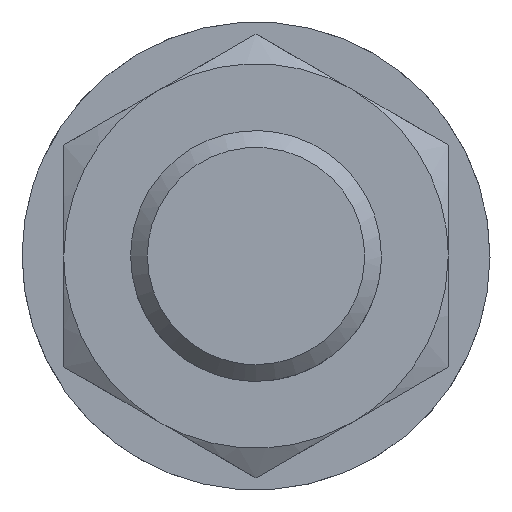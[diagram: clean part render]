
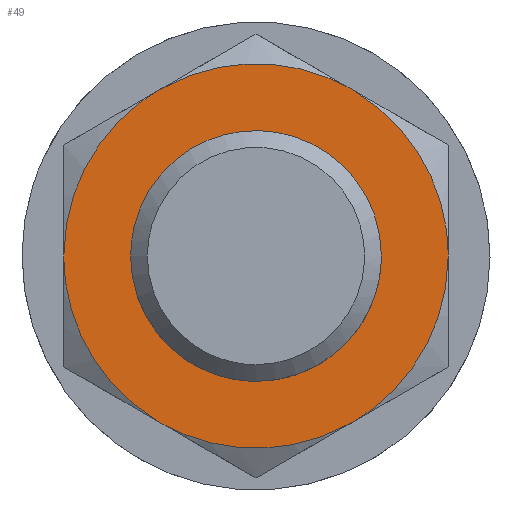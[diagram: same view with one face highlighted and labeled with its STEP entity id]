
A CAD part, left-side view. The second image highlights one B-rep face of the part: STEP entity #49.
In plain terms, the highlighted planar face has unit normal (-1, 0, 0).
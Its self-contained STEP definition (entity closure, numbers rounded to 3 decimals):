
#40=FACE_BOUND('',#138,.T.);
#49=ADVANCED_FACE('',(#92,#40),#663,.T.);
#92=FACE_OUTER_BOUND('',#137,.T.);
#137=EDGE_LOOP('',(#202,#203,#204,#205,#206,#207));
#138=EDGE_LOOP('',(#208,#209));
#202=ORIENTED_EDGE('',*,*,#405,.F.);
#203=ORIENTED_EDGE('',*,*,#407,.F.);
#204=ORIENTED_EDGE('',*,*,#408,.F.);
#205=ORIENTED_EDGE('',*,*,#406,.F.);
#206=ORIENTED_EDGE('',*,*,#404,.F.);
#207=ORIENTED_EDGE('',*,*,#403,.F.);
#208=ORIENTED_EDGE('',*,*,#393,.F.);
#209=ORIENTED_EDGE('',*,*,#391,.F.);
#391=EDGE_CURVE('',#608,#598,#518,.T.);
#393=EDGE_CURVE('',#598,#608,#519,.T.);
#403=EDGE_CURVE('',#602,#603,#527,.T.);
#404=EDGE_CURVE('',#603,#607,#528,.T.);
#405=EDGE_CURVE('',#604,#602,#529,.T.);
#406=EDGE_CURVE('',#607,#606,#530,.T.);
#407=EDGE_CURVE('',#605,#604,#531,.T.);
#408=EDGE_CURVE('',#606,#605,#532,.T.);
#518=(
BOUNDED_CURVE()
B_SPLINE_CURVE(2,(#1166,#1167,#1168,#1169,#1170),.UNSPECIFIED.,.F.,.F.)
B_SPLINE_CURVE_WITH_KNOTS((3,2,3),(47.124,70.686,94.247),
 .UNSPECIFIED.)
CURVE()
GEOMETRIC_REPRESENTATION_ITEM()
RATIONAL_B_SPLINE_CURVE((1.,0.707,1.,0.707,1.))
REPRESENTATION_ITEM('')
);
#519=(
BOUNDED_CURVE()
B_SPLINE_CURVE(2,(#1173,#1174,#1175,#1176,#1177),.UNSPECIFIED.,.F.,.F.)
B_SPLINE_CURVE_WITH_KNOTS((3,2,3),(0.,23.562,47.124),
 .UNSPECIFIED.)
CURVE()
GEOMETRIC_REPRESENTATION_ITEM()
RATIONAL_B_SPLINE_CURVE((1.,0.707,1.,0.707,1.))
REPRESENTATION_ITEM('')
);
#527=(
BOUNDED_CURVE()
B_SPLINE_CURVE(2,(#1215,#1216,#1217),.UNSPECIFIED.,.F.,.F.)
B_SPLINE_CURVE_WITH_KNOTS((3,3),(0.,24.086),.UNSPECIFIED.)
CURVE()
GEOMETRIC_REPRESENTATION_ITEM()
RATIONAL_B_SPLINE_CURVE((1.,0.866,1.))
REPRESENTATION_ITEM('')
);
#528=(
BOUNDED_CURVE()
B_SPLINE_CURVE(2,(#1218,#1219,#1220),.UNSPECIFIED.,.F.,.F.)
B_SPLINE_CURVE_WITH_KNOTS((3,3),(0.,24.086),.UNSPECIFIED.)
CURVE()
GEOMETRIC_REPRESENTATION_ITEM()
RATIONAL_B_SPLINE_CURVE((1.,0.866,1.))
REPRESENTATION_ITEM('')
);
#529=(
BOUNDED_CURVE()
B_SPLINE_CURVE(2,(#1221,#1222,#1223),.UNSPECIFIED.,.F.,.F.)
B_SPLINE_CURVE_WITH_KNOTS((3,3),(0.,24.086),.UNSPECIFIED.)
CURVE()
GEOMETRIC_REPRESENTATION_ITEM()
RATIONAL_B_SPLINE_CURVE((1.,0.866,1.))
REPRESENTATION_ITEM('')
);
#530=(
BOUNDED_CURVE()
B_SPLINE_CURVE(2,(#1224,#1225,#1226),.UNSPECIFIED.,.F.,.F.)
B_SPLINE_CURVE_WITH_KNOTS((3,3),(0.,24.086),.UNSPECIFIED.)
CURVE()
GEOMETRIC_REPRESENTATION_ITEM()
RATIONAL_B_SPLINE_CURVE((1.,0.866,1.))
REPRESENTATION_ITEM('')
);
#531=(
BOUNDED_CURVE()
B_SPLINE_CURVE(2,(#1227,#1228,#1229),.UNSPECIFIED.,.F.,.F.)
B_SPLINE_CURVE_WITH_KNOTS((3,3),(0.,24.086),.UNSPECIFIED.)
CURVE()
GEOMETRIC_REPRESENTATION_ITEM()
RATIONAL_B_SPLINE_CURVE((1.,0.866,1.))
REPRESENTATION_ITEM('')
);
#532=(
BOUNDED_CURVE()
B_SPLINE_CURVE(2,(#1230,#1231,#1232),.UNSPECIFIED.,.F.,.F.)
B_SPLINE_CURVE_WITH_KNOTS((3,3),(0.,24.086),.UNSPECIFIED.)
CURVE()
GEOMETRIC_REPRESENTATION_ITEM()
RATIONAL_B_SPLINE_CURVE((1.,0.866,1.))
REPRESENTATION_ITEM('')
);
#598=VERTEX_POINT('',#1134);
#602=VERTEX_POINT('',#1138);
#603=VERTEX_POINT('',#1139);
#604=VERTEX_POINT('',#1140);
#605=VERTEX_POINT('',#1141);
#606=VERTEX_POINT('',#1142);
#607=VERTEX_POINT('',#1143);
#608=VERTEX_POINT('',#1144);
#663=PLANE('',#777);
#777=AXIS2_PLACEMENT_3D('',#891,#803,$);
#803=DIRECTION('',(-1.,0.,0.));
#891=CARTESIAN_POINT('',(42.,-27.72,-31.99));
#1134=CARTESIAN_POINT('',(42.,15.,0.));
#1138=CARTESIAN_POINT('',(42.,-11.5,-19.919));
#1139=CARTESIAN_POINT('',(42.,11.5,-19.919));
#1140=CARTESIAN_POINT('',(42.,-23.,0.));
#1141=CARTESIAN_POINT('',(42.,-11.5,19.919));
#1142=CARTESIAN_POINT('',(42.,11.5,19.919));
#1143=CARTESIAN_POINT('',(42.,23.,0.));
#1144=CARTESIAN_POINT('',(42.,-15.,0.));
#1166=CARTESIAN_POINT('',(42.,-15.,0.));
#1167=CARTESIAN_POINT('',(42.,-15.,15.));
#1168=CARTESIAN_POINT('',(42.,0.,15.));
#1169=CARTESIAN_POINT('',(42.,15.,15.));
#1170=CARTESIAN_POINT('',(42.,15.,0.));
#1173=CARTESIAN_POINT('',(42.,15.,0.));
#1174=CARTESIAN_POINT('',(42.,15.,-15.));
#1175=CARTESIAN_POINT('',(42.,0.,-15.));
#1176=CARTESIAN_POINT('',(42.,-15.,-15.));
#1177=CARTESIAN_POINT('',(42.,-15.,0.));
#1215=CARTESIAN_POINT('',(42.,-11.5,-19.919));
#1216=CARTESIAN_POINT('',(42.,0.,-26.558));
#1217=CARTESIAN_POINT('',(42.,11.5,-19.919));
#1218=CARTESIAN_POINT('',(42.,11.5,-19.919));
#1219=CARTESIAN_POINT('',(42.,23.,-13.279));
#1220=CARTESIAN_POINT('',(42.,23.,0.));
#1221=CARTESIAN_POINT('',(42.,-23.,0.));
#1222=CARTESIAN_POINT('',(42.,-23.,-13.279));
#1223=CARTESIAN_POINT('',(42.,-11.5,-19.919));
#1224=CARTESIAN_POINT('',(42.,23.,0.));
#1225=CARTESIAN_POINT('',(42.,23.,13.279));
#1226=CARTESIAN_POINT('',(42.,11.5,19.919));
#1227=CARTESIAN_POINT('',(42.,-11.5,19.919));
#1228=CARTESIAN_POINT('',(42.,-23.,13.279));
#1229=CARTESIAN_POINT('',(42.,-23.,0.));
#1230=CARTESIAN_POINT('',(42.,11.5,19.919));
#1231=CARTESIAN_POINT('',(42.,0.,26.558));
#1232=CARTESIAN_POINT('',(42.,-11.5,19.919));
